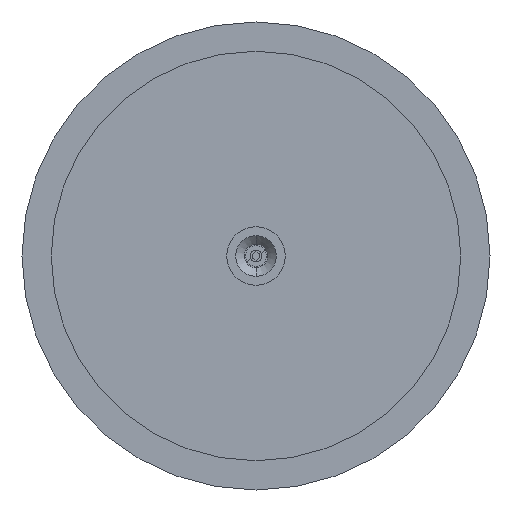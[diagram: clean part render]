
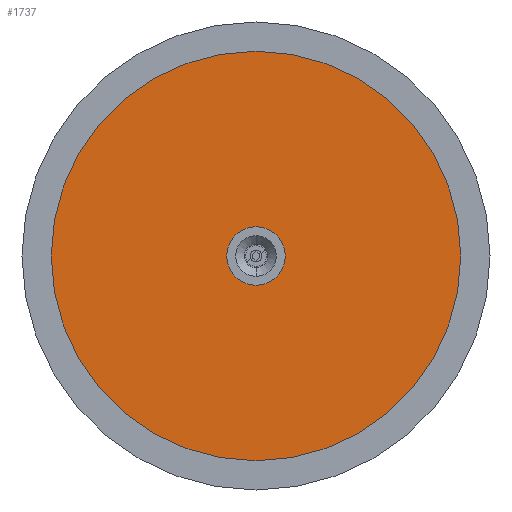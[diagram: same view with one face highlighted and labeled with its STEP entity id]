
A CAD part, front view. The second image highlights one B-rep face of the part: STEP entity #1737.
In plain terms, the highlighted planar face has unit normal (0, -1, 0).
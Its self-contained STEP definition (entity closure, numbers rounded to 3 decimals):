
#3 = CARTESIAN_POINT ( 'NONE',  ( 0., 0., -12.5 ) ) ;
#349 = VERTEX_POINT ( 'NONE', #5726 ) ;
#369 = CARTESIAN_POINT ( 'NONE',  ( 0., 0., -87.5 ) ) ;
#672 = VERTEX_POINT ( 'NONE', #369 ) ;
#1168 = ORIENTED_EDGE ( 'NONE', *, *, #2614, .F. ) ;
#1396 = EDGE_CURVE ( 'NONE', #6464, #672, #3724, .T. ) ;
#1408 = DIRECTION ( 'NONE',  ( 0., 0., 1. ) ) ;
#1434 = DIRECTION ( 'NONE',  ( 0., 0., 1. ) ) ;
#1629 = DIRECTION ( 'NONE',  ( 0., 1., 0. ) ) ;
#1737 = ADVANCED_FACE ( 'NONE', ( #10555, #5901 ), #7031, .F. ) ;
#2419 = DIRECTION ( 'NONE',  ( 0., 0., 1. ) ) ;
#2458 = EDGE_CURVE ( 'NONE', #349, #2796, #8454, .T. ) ;
#2614 = EDGE_CURVE ( 'NONE', #672, #6464, #9234, .T. ) ;
#2796 = VERTEX_POINT ( 'NONE', #3 ) ;
#2865 = EDGE_LOOP ( 'NONE', ( #1168, #10487 ) ) ;
#2952 = AXIS2_PLACEMENT_3D ( 'NONE', #7306, #1629, #2419 ) ;
#3071 = DIRECTION ( 'NONE',  ( 0., 1., 0. ) ) ;
#3151 = ORIENTED_EDGE ( 'NONE', *, *, #2458, .T. ) ;
#3724 = CIRCLE ( 'NONE', #8658, 87.5 ) ;
#4560 = CARTESIAN_POINT ( 'NONE',  ( 0., 0., 0. ) ) ;
#4584 = EDGE_CURVE ( 'NONE', #2796, #349, #5849, .T. ) ;
#4643 = CARTESIAN_POINT ( 'NONE',  ( 0., 0., 0. ) ) ;
#5726 = CARTESIAN_POINT ( 'NONE',  ( 0., 0., 12.5 ) ) ;
#5849 = CIRCLE ( 'NONE', #6119, 12.5 ) ;
#5901 = FACE_BOUND ( 'NONE', #10614, .T. ) ;
#6119 = AXIS2_PLACEMENT_3D ( 'NONE', #4643, #10541, #10426 ) ;
#6159 = AXIS2_PLACEMENT_3D ( 'NONE', #4560, #3071, #1434 ) ;
#6464 = VERTEX_POINT ( 'NONE', #10131 ) ;
#6874 = ORIENTED_EDGE ( 'NONE', *, *, #4584, .T. ) ;
#7031 = PLANE ( 'NONE',  #6159 ) ;
#7306 = CARTESIAN_POINT ( 'NONE',  ( 0., 0., 0. ) ) ;
#7988 = CARTESIAN_POINT ( 'NONE',  ( 0., 0., 0. ) ) ;
#8454 = CIRCLE ( 'NONE', #10536, 12.5 ) ;
#8591 = CARTESIAN_POINT ( 'NONE',  ( 0., 0., 0. ) ) ;
#8658 = AXIS2_PLACEMENT_3D ( 'NONE', #7988, #9734, #9918 ) ;
#8926 = DIRECTION ( 'NONE',  ( 0., 1., 0. ) ) ;
#9234 = CIRCLE ( 'NONE', #2952, 87.5 ) ;
#9734 = DIRECTION ( 'NONE',  ( 0., 1., 0. ) ) ;
#9918 = DIRECTION ( 'NONE',  ( 0., 0., 1. ) ) ;
#10131 = CARTESIAN_POINT ( 'NONE',  ( 0., 0., 87.5 ) ) ;
#10426 = DIRECTION ( 'NONE',  ( 0., 0., 1. ) ) ;
#10487 = ORIENTED_EDGE ( 'NONE', *, *, #1396, .F. ) ;
#10536 = AXIS2_PLACEMENT_3D ( 'NONE', #8591, #8926, #1408 ) ;
#10541 = DIRECTION ( 'NONE',  ( 0., 1., 0. ) ) ;
#10555 = FACE_OUTER_BOUND ( 'NONE', #2865, .T. ) ;
#10614 = EDGE_LOOP ( 'NONE', ( #6874, #3151 ) ) ;
